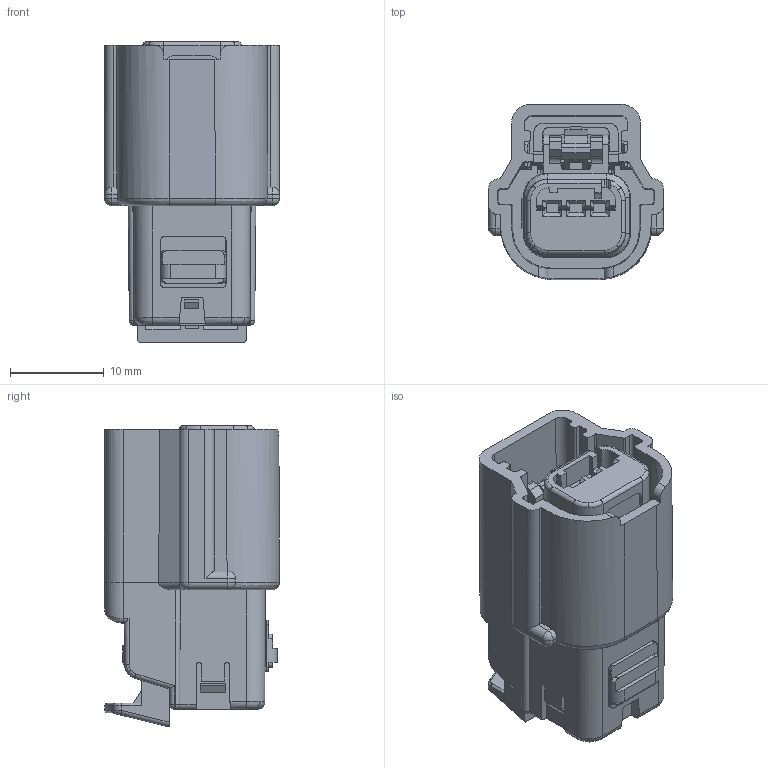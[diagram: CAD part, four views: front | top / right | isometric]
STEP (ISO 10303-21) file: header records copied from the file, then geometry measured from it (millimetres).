
FILE_DESCRIPTION(('STEP AP242'),'1');
FILE_NAME('314033110.stp','2025-09-04T13:42:36',('TraceParts'),('TraceParts S.A.'),'Spatial InterOp 3D',' ',' ');
FILE_SCHEMA(('AP242_MANAGED_MODEL_BASED_3D_ENGINEERING_MIM_LF {1 0 10303 442 1 1 4}'));
Length unit declared in the file: millimetre
Products named in the file (1): EM-31412-311_B PDM 000_3 CKT GET CONNECTOR
Bounding box: 18.7 x 18.7 x 32.13 mm (x, y, z)
Volume: 4737.6 mm3; surface area: 5581.6 mm2
Topology: 1 solids, 1 shells, 843 faces, 2332 edges, 1492 vertices
Faces by surface type: plane 560, cylinder 190, bspline 38, torus 29, cone 20, sphere 6
Entity records: 36500 total; most frequent: CARTESIAN_POINT 8375, ORIENTED_EDGE 4652, DIRECTION 4175, EDGE_CURVE 2326, LINE 1749, VECTOR 1749, VERTEX_POINT 1492, AXIS2_PLACEMENT_3D 1213
